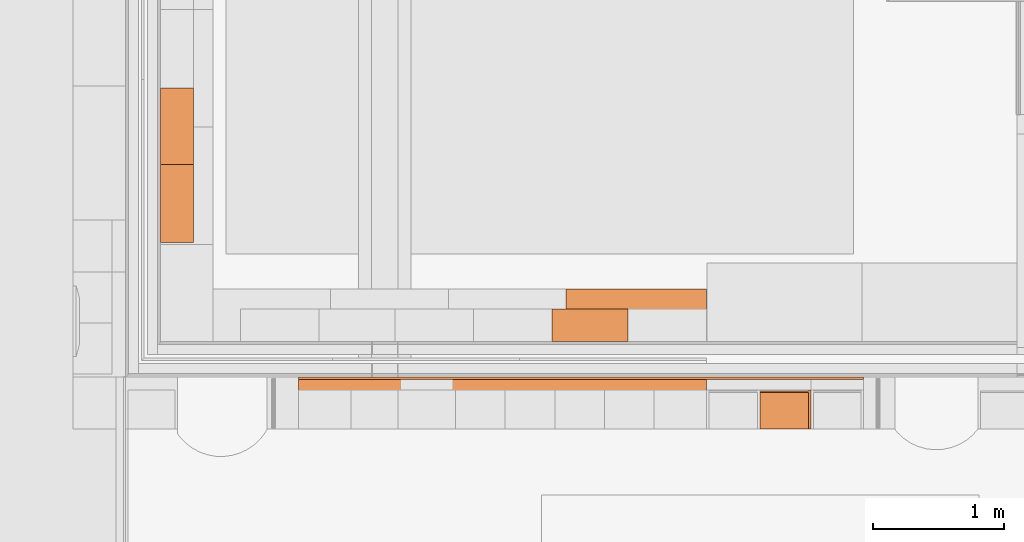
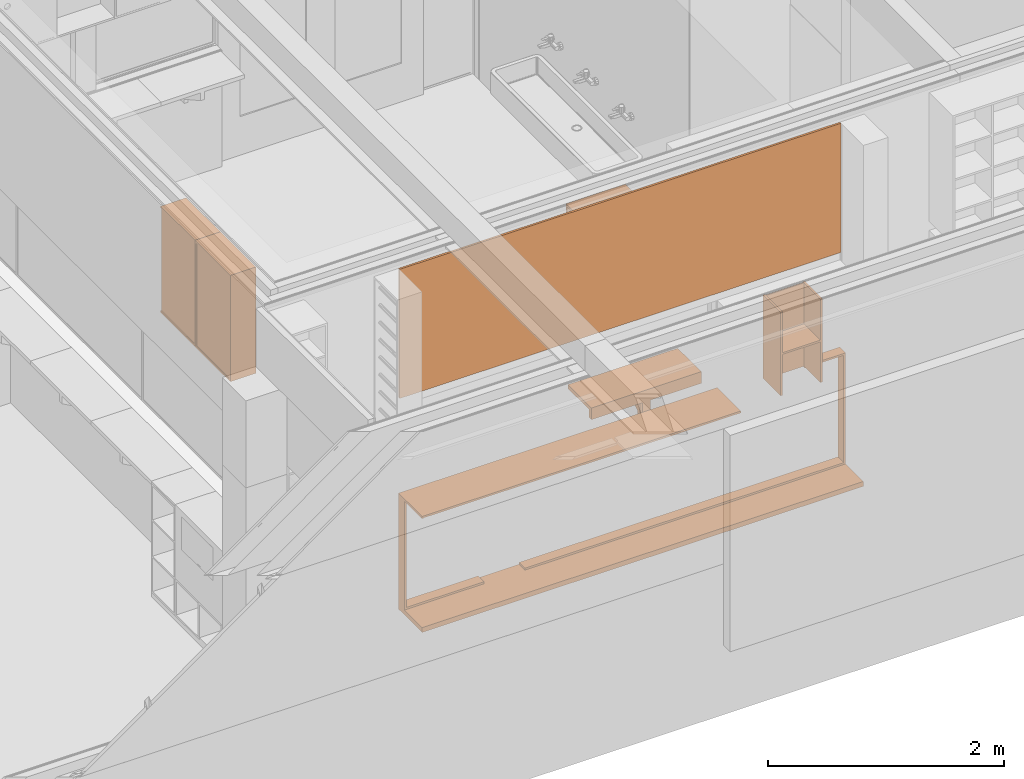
# One storey, part 129 of 137: 7 proxies.
"""IFC2X3 building model written with IfcOpenShell, lengths in millimetres."""

from ifc_helpers import new_model, entity, si_unit, converted_unit, derived_unit, money_unit, direction, frame, origin_with_axes, place, context, subcontext, project, spatial, faceted_brep, material, type_object, element, save


model = new_model("IFC2X3")

# Units and contexts
model_context = context("Model", 3, precision=0.01, world=origin_with_axes(), true_north=direction((0.0, 1.0)))
body_context = subcontext(model_context, "Body", "Model", "MODEL_VIEW")
ifc_project = project(units=[si_unit("LENGTHUNIT", "METRE", prefix="MILLI"), si_unit("AREAUNIT", "SQUARE_METRE"), si_unit("VOLUMEUNIT", "CUBIC_METRE"), converted_unit("PLANEANGLEUNIT", "DEGREE", entity("IfcPlaneAngleMeasure", 0.0174532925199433), si_unit("PLANEANGLEUNIT", "RADIAN"), dimensions=[0, 0, 0, 0, 0, 0, 0]), money_unit("EUR"), converted_unit("TIMEUNIT", "Year", entity("IfcTimeMeasure", 31556926.0), si_unit("TIMEUNIT", "SECOND"), dimensions=[0, 0, 1, 0, 0, 0, 0]), si_unit("MASSUNIT", "GRAM", prefix="KILO"), si_unit("THERMODYNAMICTEMPERATUREUNIT", "DEGREE_CELSIUS"), si_unit("LUMINOUSINTENSITYUNIT", "LUMEN"), si_unit("ENERGYUNIT", "JOULE", prefix="MEGA"), derived_unit("THERMALCONDUCTANCEUNIT", [(si_unit("POWERUNIT", "WATT"), 1), (si_unit("LENGTHUNIT", "METRE"), -1), (si_unit("THERMODYNAMICTEMPERATUREUNIT", "KELVIN"), -1)]), derived_unit("SPECIFICHEATCAPACITYUNIT", [(si_unit("ENERGYUNIT", "JOULE"), 1), (si_unit("MASSUNIT", "GRAM", prefix="KILO"), -1), (si_unit("THERMODYNAMICTEMPERATUREUNIT", "KELVIN"), -1)]), derived_unit("MASSDENSITYUNIT", [(si_unit("MASSUNIT", "GRAM", prefix="KILO"), 1), (si_unit("VOLUMEUNIT", "CUBIC_METRE"), -1)])], contexts=[model_context])

# Site, building, storey
site_placement = place(None, origin_with_axes())
site = spatial("IfcSite", under=ifc_project, at=site_placement, Name="Site", CompositionType="ELEMENT")
building_placement = place(site_placement, origin_with_axes())
building = spatial("IfcBuilding", under=site, at=building_placement, Name="Naam gebouw", CompositionType="ELEMENT")
storey_placement = place(building_placement, frame((0.0, 0.0, 3960.0), z_axis=(0.0, 0.0, 1.0), x_axis=(1.0, 0.0, 0.0)))
storey = spatial("IfcBuildingStorey", under=building, at=storey_placement, Name="1e verdieping", CompositionType="ELEMENT", Elevation=3960.0)

# Proxies
ifc_material = material(Name="ALG - ALGEMEEN")
building_element_proxy_type_1 = type_object("IfcBuildingElementProxyType", Name="ALG - ALGEMEEN 20", PredefinedType="NOTDEFINED")
proxy_1_placement = place(storey_placement, frame((21360.00666930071, 12904.99777245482, 2190.0), z_axis=(0.0, 0.0, 1.0), x_axis=(-1.0, 0.0, 0.0)))
element("IfcBuildingElementProxy", 1, at=proxy_1_placement, inside=storey, type_object=building_element_proxy_type_1, material=ifc_material, Name="_Wand-x", context=body_context, shape_type="Brep", body=[
    faceted_brep([(0.0, 19.99999999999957, 0.0), (4320.00005112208, 19.99999999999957, 0.0), (4320.00005112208, 0.0, 0.0), (0.0, 0.0, 0.0), (0.0, 19.99999999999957, 1337.000000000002), (4320.00005112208, 19.99999999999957, 1337.000000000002), (4320.00005112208, 0.0, 1337.000000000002), (0.0, 0.0, 1337.000000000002)], [[[0, 1, 2, 3]], [[4, 5, 1, 0]], [[2, 1, 5, 6]], [[3, 2, 6, 7]], [[4, 0, 3, 7]], [[7, 6, 5, 4]]]),
])
building_element_proxy_type_2 = type_object("IfcBuildingElementProxyType", Name="Onderkast recht 26", PredefinedType="NOTDEFINED")
proxy_2_placement = place(storey_placement, frame((15984.99945960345, 13930.00727895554, 2100.0), z_axis=(0.0, 0.0, 1.0), x_axis=(0.0, 1.0, 0.0)))
element("IfcBuildingElementProxy", 2, at=proxy_2_placement, inside=storey, type_object=building_element_proxy_type_2, Name="_Leeg", context=body_context, shape_type="Brep", body=[
    faceted_brep([(18.0, -250.0, 0.0), (582.0, -250.0, 0.0), (582.0, -250.0, 18.0), (18.0, -250.0, 18.0), (18.0, 0.0, 0.0), (582.0, 0.0, 0.0), (582.0, 0.0, 18.0), (18.0, 0.0, 18.0)], [[[0, 1, 2, 3]], [[0, 4, 5, 1]], [[1, 5, 6, 2]], [[3, 2, 6, 7]], [[4, 0, 3, 7]], [[5, 4, 7, 6]]]),
    faceted_brep([(18.0, -250.0, 1082.0), (582.0, -250.0, 1082.0), (582.0, -250.0, 1100.0), (18.0, -250.0, 1100.0), (18.0, 0.0, 1082.0), (582.0, 0.0, 1082.0), (582.0, 0.0, 1100.0), (18.0, 0.0, 1100.0)], [[[0, 1, 2, 3]], [[0, 4, 5, 1]], [[1, 5, 6, 2]], [[3, 2, 6, 7]], [[4, 0, 3, 7]], [[5, 4, 7, 6]]]),
    faceted_brep([(0.0, 0.0, 0.0), (0.0, -250.0, 0.0), (0.0, -250.0, 1100.0), (0.0, 0.0, 1100.0), (18.0, 0.0, 0.0), (18.0, -250.0, 0.0), (18.0, -250.0, 1100.0), (18.0, 0.0, 1100.0)], [[[0, 1, 2, 3]], [[0, 4, 5, 1]], [[1, 5, 6, 2]], [[3, 2, 6, 7]], [[4, 0, 3, 7]], [[5, 4, 7, 6]]]),
    faceted_brep([(600.0, -250.0, 0.0), (600.0, 0.0, 0.0), (600.0, 0.0, 1100.0), (600.0, -250.0, 1100.0), (582.0, -250.0, 0.0), (582.0, 0.0, 0.0), (582.0, 0.0, 1100.0), (582.0, -250.0, 1100.0)], [[[0, 1, 2, 3]], [[0, 4, 5, 1]], [[1, 5, 6, 2]], [[3, 2, 6, 7]], [[4, 0, 3, 7]], [[5, 4, 7, 6]]]),
    faceted_brep([(582.0, -9.0, 18.0), (18.00000000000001, -9.0, 18.0), (18.00000000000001, -9.0, 1082.0), (582.0, -9.0, 1082.0), (582.0, -18.0, 18.0), (18.00000000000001, -18.0, 18.0), (18.00000000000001, -18.0, 1082.0), (582.0, -18.0, 1082.0)], [[[0, 1, 2, 3]], [[0, 4, 5, 1]], [[1, 5, 6, 2]], [[3, 2, 6, 7]], [[4, 0, 3, 7]], [[5, 4, 7, 6]]]),
])
proxy_3_placement = place(storey_placement, frame((15984.99945960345, 15130.00727895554, 2100.0), z_axis=(0.0, 0.0, 1.0), x_axis=(0.0, 1.0, 0.0)))
element("IfcBuildingElementProxy", 3, at=proxy_3_placement, inside=storey, type_object=building_element_proxy_type_2, Name="_Leeg", context=body_context, shape_type="Brep", body=[
    faceted_brep([(-581.999999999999, -250.0000000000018, 541.0000000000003), (-18.00000000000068, -250.0000000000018, 541.0000000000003), (-18.00000000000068, -250.0000000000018, 559.0000000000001), (-581.999999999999, -250.0000000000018, 559.0000000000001), (-18.00000000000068, -18.00000000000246, 541.0000000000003), (-581.999999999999, -18.00000000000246, 541.0000000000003), (-18.00000000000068, -18.00000000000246, 559.0000000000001), (-581.999999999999, -18.00000000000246, 559.0000000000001)], [[[0, 1, 2, 3]], [[4, 1, 0, 5]], [[1, 4, 6, 2]], [[3, 2, 6, 7]], [[5, 0, 3, 7]], [[4, 5, 7, 6]]]),
    faceted_brep([(-581.999999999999, -250.0000000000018, 0.0), (-18.00000000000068, -250.0000000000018, 0.0), (-18.00000000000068, -250.0000000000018, 17.99999999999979), (-581.999999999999, -250.0000000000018, 17.99999999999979), (-18.00000000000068, 0.0, 0.0), (-581.999999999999, 0.0, 0.0), (-18.00000000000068, 0.0, 17.99999999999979), (-581.999999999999, 0.0, 17.99999999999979)], [[[0, 1, 2, 3]], [[4, 1, 0, 5]], [[1, 4, 6, 2]], [[3, 2, 6, 7]], [[5, 0, 3, 7]], [[4, 5, 7, 6]]]),
    faceted_brep([(-18.00000000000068, -9.000000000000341, 17.99999999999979), (-581.999999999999, -9.000000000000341, 17.99999999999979), (-581.999999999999, -9.000000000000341, 1082.000000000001), (-18.00000000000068, -9.000000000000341, 1082.000000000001), (-581.999999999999, -18.00000000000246, 17.99999999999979), (-18.00000000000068, -18.00000000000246, 17.99999999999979), (-581.999999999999, -18.00000000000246, 1082.000000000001), (-18.00000000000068, -18.00000000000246, 1082.000000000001)], [[[0, 1, 2, 3]], [[4, 1, 0, 5]], [[1, 4, 6, 2]], [[3, 2, 6, 7]], [[5, 0, 3, 7]], [[4, 5, 7, 6]]]),
    faceted_brep([(-581.999999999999, -250.0000000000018, 1082.000000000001), (-18.00000000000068, -250.0000000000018, 1082.000000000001), (-18.00000000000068, -250.0000000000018, 1100.0), (-581.999999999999, -250.0000000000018, 1100.0), (-18.00000000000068, 0.0, 1082.000000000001), (-581.999999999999, 0.0, 1082.000000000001), (-18.00000000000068, 0.0, 1100.0), (-581.999999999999, 0.0, 1100.0)], [[[0, 1, 2, 3]], [[4, 1, 0, 5]], [[1, 4, 6, 2]], [[3, 2, 6, 7]], [[5, 0, 3, 7]], [[4, 5, 7, 6]]]),
    faceted_brep([(-599.9999999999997, 0.0, 0.0), (-599.9999999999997, -250.0000000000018, 0.0), (-599.9999999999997, -250.0000000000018, 1100.0), (-599.9999999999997, 0.0, 1100.0), (-581.999999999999, -250.0000000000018, 0.0), (-581.999999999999, 0.0, 0.0), (-581.999999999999, -250.0000000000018, 1100.0), (-581.999999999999, 0.0, 1100.0)], [[[0, 1, 2, 3]], [[4, 1, 0, 5]], [[1, 4, 6, 2]], [[3, 2, 6, 7]], [[5, 0, 3, 7]], [[4, 5, 7, 6]]]),
    faceted_brep([(-580.9999999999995, -250.0000000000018, 19.00000000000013), (-19.00000000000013, -250.0000000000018, 19.00000000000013), (-19.00000000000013, -250.0000000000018, 540.0), (-580.9999999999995, -250.0000000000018, 540.0), (-511.1907786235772, -250.0000000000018, 275.7606042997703), (-508.9807621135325, -250.0000000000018, 280.5), (-505.981333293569, -250.0000000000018, 284.7836282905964), (-502.2836282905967, -250.0000000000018, 288.4813332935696), (-497.9999999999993, -250.0000000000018, 291.4807621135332), (-493.2606042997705, -250.0000000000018, 293.6907786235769), (-488.209445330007, -250.0000000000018, 295.0442325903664), (-482.9999999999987, -250.0000000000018, 295.5000000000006), (-477.7905546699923, -250.0000000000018, 295.0442325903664), (-472.7393957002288, -250.0000000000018, 293.6907786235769), (-468.0, -250.0000000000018, 291.4807621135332), (-463.7163717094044, -250.0000000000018, 288.4813332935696), (-460.0186667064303, -250.0000000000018, 284.7836282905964), (-457.0192378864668, -250.0000000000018, 280.5), (-454.8092213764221, -250.0000000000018, 275.7606042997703), (-453.4557674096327, -250.0000000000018, 270.7094453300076), (-452.9999999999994, -250.0000000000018, 265.5000000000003), (-453.4557674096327, -250.0000000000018, 260.290554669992), (-454.8092213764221, -250.0000000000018, 255.2393957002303), (-457.0192378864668, -250.0000000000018, 250.4999999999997), (-460.0186667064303, -250.0000000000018, 246.2163717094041), (-463.7163717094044, -250.0000000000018, 242.518666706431), (-468.0, -250.0000000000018, 239.5192378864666), (-472.7393957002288, -250.0000000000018, 237.3092213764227), (-477.7905546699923, -250.0000000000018, 235.9557674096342), (-482.9999999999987, -250.0000000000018, 235.5000000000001), (-488.209445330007, -250.0000000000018, 235.9557674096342), (-493.2606042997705, -250.0000000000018, 237.3092213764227), (-497.9999999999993, -250.0000000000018, 239.5192378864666), (-502.2836282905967, -250.0000000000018, 242.518666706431), (-505.981333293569, -250.0000000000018, 246.2163717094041), (-508.9807621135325, -250.0000000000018, 250.4999999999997), (-511.1907786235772, -250.0000000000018, 255.2393957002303), (-512.5442325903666, -250.0000000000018, 260.290554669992), (-512.9999999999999, -250.0000000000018, 265.5000000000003), (-512.5442325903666, -250.0000000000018, 270.7094453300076), (-580.9999999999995, -232.0000000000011, 19.00000000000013), (-19.00000000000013, -232.0000000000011, 19.00000000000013), (-19.00000000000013, -232.0000000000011, 540.0), (-580.9999999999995, -232.0000000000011, 540.0), (-508.9807621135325, -232.0000000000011, 280.5), (-511.1907786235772, -232.0000000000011, 275.7606042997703), (-505.981333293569, -232.0000000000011, 284.7836282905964), (-502.2836282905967, -232.0000000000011, 288.4813332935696), (-497.9999999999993, -232.0000000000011, 291.4807621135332), (-493.2606042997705, -232.0000000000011, 293.6907786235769), (-488.209445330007, -232.0000000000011, 295.0442325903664), (-482.9999999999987, -232.0000000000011, 295.5000000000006), (-477.7905546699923, -232.0000000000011, 295.0442325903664), (-472.7393957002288, -232.0000000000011, 293.6907786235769), (-468.0, -232.0000000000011, 291.4807621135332), (-463.7163717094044, -232.0000000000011, 288.4813332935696), (-460.0186667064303, -232.0000000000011, 284.7836282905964), (-457.0192378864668, -232.0000000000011, 280.5), (-454.8092213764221, -232.0000000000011, 275.7606042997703), (-453.4557674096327, -232.0000000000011, 270.7094453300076), (-452.9999999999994, -232.0000000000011, 265.5000000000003), (-453.4557674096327, -232.0000000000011, 260.290554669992), (-454.8092213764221, -232.0000000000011, 255.2393957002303), (-457.0192378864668, -232.0000000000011, 250.4999999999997), (-460.0186667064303, -232.0000000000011, 246.2163717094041), (-463.7163717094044, -232.0000000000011, 242.518666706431), (-468.0, -232.0000000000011, 239.5192378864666), (-472.7393957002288, -232.0000000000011, 237.3092213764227), (-477.7905546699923, -232.0000000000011, 235.9557674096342), (-482.9999999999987, -232.0000000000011, 235.5000000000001), (-488.209445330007, -232.0000000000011, 235.9557674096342), (-493.2606042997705, -232.0000000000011, 237.3092213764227), (-497.9999999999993, -232.0000000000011, 239.5192378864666), (-502.2836282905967, -232.0000000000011, 242.518666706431), (-505.981333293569, -232.0000000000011, 246.2163717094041), (-508.9807621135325, -232.0000000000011, 250.4999999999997), (-511.1907786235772, -232.0000000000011, 255.2393957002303), (-512.5442325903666, -232.0000000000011, 260.290554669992), (-512.9999999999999, -232.0000000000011, 265.5000000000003), (-512.5442325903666, -232.0000000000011, 270.7094453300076)], [[[0, 1, 2, 3], [4, 5, 6, 7, 8, 9, 10, 11, 12, 13, 14, 15, 16, 17, 18, 19, 20, 21, 22, 23, 24, 25, 26, 27, 28, 29, 30, 31, 32, 33, 34, 35, 36, 37, 38, 39]], [[40, 41, 1, 0]], [[41, 42, 2, 1]], [[42, 43, 3, 2]], [[43, 40, 0, 3]], [[44, 5, 4, 45]], [[46, 6, 5, 44]], [[47, 7, 6, 46]], [[48, 8, 7, 47]], [[49, 9, 8, 48]], [[50, 10, 9, 49]], [[51, 11, 10, 50]], [[52, 12, 11, 51]], [[53, 13, 12, 52]], [[54, 14, 13, 53]], [[55, 15, 14, 54]], [[56, 16, 15, 55]], [[57, 17, 16, 56]], [[58, 18, 17, 57]], [[59, 19, 18, 58]], [[60, 20, 19, 59]], [[61, 21, 20, 60]], [[62, 22, 21, 61]], [[63, 23, 22, 62]], [[64, 24, 23, 63]], [[65, 25, 24, 64]], [[66, 26, 25, 65]], [[67, 27, 26, 66]], [[68, 28, 27, 67]], [[69, 29, 28, 68]], [[70, 30, 29, 69]], [[71, 31, 30, 70]], [[72, 32, 31, 71]], [[73, 33, 32, 72]], [[74, 34, 33, 73]], [[75, 35, 34, 74]], [[76, 36, 35, 75]], [[77, 37, 36, 76]], [[78, 38, 37, 77]], [[79, 39, 38, 78]], [[45, 4, 39, 79]], [[42, 41, 40, 43], [76, 75, 74, 73, 72, 71, 70, 69, 68, 67, 66, 65, 64, 63, 62, 61, 60, 59, 58, 57, 56, 55, 54, 53, 52, 51, 50, 49, 48, 47, 46, 44, 45, 79, 78, 77]]]),
])
proxy_4_placement = place(storey_placement, frame((19560.00661817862, 13174.99778166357, 2100.000000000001), z_axis=(0.0, 0.0, 1.0), x_axis=(-1.0, 0.0, 0.0)))
element("IfcBuildingElementProxy", 4, at=proxy_4_placement, inside=storey, type_object=building_element_proxy_type_2, Name="_Leeg", context=body_context, shape_type="Brep", body=[
    faceted_brep([(18.00000000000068, -250.0, 559.0000000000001), (18.00000000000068, -250.0, 541.0000000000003), (582.0000000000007, -250.0, 541.0000000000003), (582.0000000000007, -250.0, 559.0000000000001), (18.00000000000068, -18.00000000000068, 559.0000000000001), (18.00000000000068, -18.00000000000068, 541.0000000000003), (582.0000000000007, -18.00000000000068, 541.0000000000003), (582.0000000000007, -18.00000000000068, 559.0000000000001)], [[[0, 1, 2, 3]], [[4, 5, 1, 0]], [[2, 1, 5, 6]], [[3, 2, 6, 7]], [[4, 0, 3, 7]], [[7, 6, 5, 4]]]),
    faceted_brep([(18.00000000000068, -250.0, 17.99999999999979), (18.00000000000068, -250.0, 0.0), (582.0000000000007, -250.0, 0.0), (582.0000000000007, -250.0, 17.99999999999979), (18.00000000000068, 0.0, 17.99999999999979), (18.00000000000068, 0.0, 0.0), (582.0000000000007, 0.0, 0.0), (582.0000000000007, 0.0, 17.99999999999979)], [[[0, 1, 2, 3]], [[4, 5, 1, 0]], [[2, 1, 5, 6]], [[3, 2, 6, 7]], [[4, 0, 3, 7]], [[7, 6, 5, 4]]]),
    faceted_brep([(582.0000000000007, -9.000000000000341, 1082.0), (582.0000000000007, -9.000000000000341, 17.99999999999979), (18.00000000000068, -9.000000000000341, 17.99999999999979), (18.00000000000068, -9.000000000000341, 1082.0), (582.0000000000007, -18.00000000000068, 1082.0), (582.0000000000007, -18.00000000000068, 17.99999999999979), (18.00000000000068, -18.00000000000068, 17.99999999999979), (18.00000000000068, -18.00000000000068, 1082.0)], [[[0, 1, 2, 3]], [[4, 5, 1, 0]], [[2, 1, 5, 6]], [[3, 2, 6, 7]], [[4, 0, 3, 7]], [[7, 6, 5, 4]]]),
    faceted_brep([(18.00000000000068, -250.0, 1100.0), (18.00000000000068, -250.0, 1082.0), (582.0000000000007, -250.0, 1082.0), (582.0000000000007, -250.0, 1100.0), (18.00000000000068, 0.0, 1100.0), (18.00000000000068, 0.0, 1082.0), (582.0000000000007, 0.0, 1082.0), (582.0000000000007, 0.0, 1100.0)], [[[0, 1, 2, 3]], [[4, 5, 1, 0]], [[2, 1, 5, 6]], [[3, 2, 6, 7]], [[4, 0, 3, 7]], [[7, 6, 5, 4]]]),
    faceted_brep([(0.0, 0.0, 1100.0), (0.0, 0.0, 0.0), (0.0, -250.0, 0.0), (0.0, -250.0, 1100.0), (18.00000000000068, 0.0, 1100.0), (18.00000000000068, 0.0, 0.0), (18.00000000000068, -250.0, 0.0), (18.00000000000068, -250.0, 1100.0)], [[[0, 1, 2, 3]], [[4, 5, 1, 0]], [[2, 1, 5, 6]], [[3, 2, 6, 7]], [[4, 0, 3, 7]], [[7, 6, 5, 4]]]),
    faceted_brep([(580.9999999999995, -250.0, 560.0000000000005), (580.9999999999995, -250.0, 1081.0), (18.99999999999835, -250.0, 1081.0), (18.99999999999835, -250.0, 560.0000000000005), (511.1907786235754, -250.0, 831.7606042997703), (512.5442325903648, -250.0, 826.7094453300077), (512.9999999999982, -250.0, 821.5000000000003), (512.5442325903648, -250.0, 816.2905546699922), (511.1907786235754, -250.0, 811.2393957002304), (508.9807621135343, -250.0, 806.5000000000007), (505.981333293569, -250.0, 802.2163717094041), (502.2836282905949, -250.0, 798.518666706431), (498.0000000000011, -250.0, 795.5192378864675), (493.2606042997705, -250.0, 793.3092213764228), (488.209445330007, -250.0, 791.9557674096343), (483.0000000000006, -250.0, 791.5000000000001), (477.7905546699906, -250.0, 791.9557674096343), (472.7393957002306, -250.0, 793.3092213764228), (468.0, -250.0, 795.5192378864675), (463.7163717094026, -250.0, 798.518666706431), (460.0186667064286, -250.0, 802.2163717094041), (457.0192378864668, -250.0, 806.5000000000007), (454.8092213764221, -250.0, 811.2393957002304), (453.4557674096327, -250.0, 816.2905546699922), (452.9999999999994, -250.0, 821.5000000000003), (453.4557674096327, -250.0, 826.7094453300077), (454.8092213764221, -250.0, 831.7606042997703), (457.0192378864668, -250.0, 836.5), (460.0186667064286, -250.0, 840.7836282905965), (463.7163717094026, -250.0, 844.4813332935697), (468.0, -250.0, 847.4807621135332), (472.7393957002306, -250.0, 849.6907786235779), (477.7905546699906, -250.0, 851.0442325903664), (483.0000000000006, -250.0, 851.5000000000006), (488.209445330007, -250.0, 851.0442325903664), (493.2606042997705, -250.0, 849.6907786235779), (498.0000000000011, -250.0, 847.4807621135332), (502.2836282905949, -250.0, 844.4813332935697), (505.981333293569, -250.0, 840.7836282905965), (508.9807621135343, -250.0, 836.5), (580.9999999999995, -231.9999999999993, 1081.0), (580.9999999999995, -231.9999999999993, 560.0000000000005), (18.99999999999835, -231.9999999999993, 1081.0), (18.99999999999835, -231.9999999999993, 560.0000000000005), (511.1907786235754, -231.9999999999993, 831.7606042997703), (512.5442325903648, -231.9999999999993, 826.7094453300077), (512.9999999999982, -231.9999999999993, 821.5000000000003), (512.5442325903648, -231.9999999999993, 816.2905546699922), (511.1907786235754, -231.9999999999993, 811.2393957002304), (508.9807621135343, -231.9999999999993, 806.5000000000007), (505.981333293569, -231.9999999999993, 802.2163717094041), (502.2836282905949, -231.9999999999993, 798.518666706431), (498.0000000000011, -231.9999999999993, 795.5192378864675), (493.2606042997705, -231.9999999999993, 793.3092213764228), (488.209445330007, -231.9999999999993, 791.9557674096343), (483.0000000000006, -231.9999999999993, 791.5000000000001), (477.7905546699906, -231.9999999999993, 791.9557674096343), (472.7393957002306, -231.9999999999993, 793.3092213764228), (468.0, -231.9999999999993, 795.5192378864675), (463.7163717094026, -231.9999999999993, 798.518666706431), (460.0186667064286, -231.9999999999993, 802.2163717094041), (457.0192378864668, -231.9999999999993, 806.5000000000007), (454.8092213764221, -231.9999999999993, 811.2393957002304), (453.4557674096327, -231.9999999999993, 816.2905546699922), (452.9999999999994, -231.9999999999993, 821.5000000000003), (453.4557674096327, -231.9999999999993, 826.7094453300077), (454.8092213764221, -231.9999999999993, 831.7606042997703), (457.0192378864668, -231.9999999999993, 836.5), (460.0186667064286, -231.9999999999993, 840.7836282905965), (463.7163717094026, -231.9999999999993, 844.4813332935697), (468.0, -231.9999999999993, 847.4807621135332), (472.7393957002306, -231.9999999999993, 849.6907786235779), (477.7905546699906, -231.9999999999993, 851.0442325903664), (483.0000000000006, -231.9999999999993, 851.5000000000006), (488.209445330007, -231.9999999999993, 851.0442325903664), (493.2606042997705, -231.9999999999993, 849.6907786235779), (498.0000000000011, -231.9999999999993, 847.4807621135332), (502.2836282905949, -231.9999999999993, 844.4813332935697), (505.981333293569, -231.9999999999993, 840.7836282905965), (508.9807621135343, -231.9999999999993, 836.5)], [[[0, 1, 2, 3], [4, 5, 6, 7, 8, 9, 10, 11, 12, 13, 14, 15, 16, 17, 18, 19, 20, 21, 22, 23, 24, 25, 26, 27, 28, 29, 30, 31, 32, 33, 34, 35, 36, 37, 38, 39]], [[40, 1, 0, 41]], [[42, 2, 1, 40]], [[43, 3, 2, 42]], [[41, 0, 3, 43]], [[44, 45, 5, 4]], [[45, 46, 6, 5]], [[46, 47, 7, 6]], [[47, 48, 8, 7]], [[48, 49, 9, 8]], [[49, 50, 10, 9]], [[50, 51, 11, 10]], [[51, 52, 12, 11]], [[52, 53, 13, 12]], [[53, 54, 14, 13]], [[54, 55, 15, 14]], [[55, 56, 16, 15]], [[56, 57, 17, 16]], [[57, 58, 18, 17]], [[58, 59, 19, 18]], [[59, 60, 20, 19]], [[60, 61, 21, 20]], [[61, 62, 22, 21]], [[62, 63, 23, 22]], [[63, 64, 24, 23]], [[64, 65, 25, 24]], [[65, 66, 26, 25]], [[66, 67, 27, 26]], [[67, 68, 28, 27]], [[68, 69, 29, 28]], [[69, 70, 30, 29]], [[70, 71, 31, 30]], [[71, 72, 32, 31]], [[72, 73, 33, 32]], [[73, 74, 34, 33]], [[74, 75, 35, 34]], [[75, 76, 36, 35]], [[76, 77, 37, 36]], [[77, 78, 38, 37]], [[78, 79, 39, 38]], [[79, 44, 4, 39]], [[42, 40, 41, 43], [48, 47, 46, 45, 44, 79, 78, 77, 76, 75, 74, 73, 72, 71, 70, 69, 68, 67, 66, 65, 64, 63, 62, 61, 60, 59, 58, 57, 56, 55, 54, 53, 52, 51, 50, 49]]]),
])
proxy_5_placement = place(storey_placement, frame((20960.00661817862, 12804.99778166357, 1199.999999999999), z_axis=(0.0, 0.0, 1.0), x_axis=(1.0, 0.0, 0.0)))
element("IfcBuildingElementProxy", 5, at=proxy_5_placement, inside=storey, type_object=building_element_proxy_type_2, Name="_Leeg", context=body_context, shape_type="Brep", body=[
    faceted_brep([(-389.999999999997, -300.0000000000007, 442.0000000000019), (-19.99999999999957, -300.0000000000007, 442.0000000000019), (-19.99999999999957, -300.0000000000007, 460.0000000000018), (-389.999999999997, -300.0000000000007, 460.0000000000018), (-19.99999999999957, -19.99999999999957, 442.0000000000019), (-389.999999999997, -19.99999999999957, 442.0000000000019), (-19.99999999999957, -19.99999999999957, 460.0000000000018), (-389.999999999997, -19.99999999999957, 460.0000000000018)], [[[0, 1, 2, 3]], [[4, 1, 0, 5]], [[1, 4, 6, 2]], [[3, 2, 6, 7]], [[5, 0, 3, 7]], [[4, 5, 7, 6]]]),
    faceted_brep([(-19.99999999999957, -9.999999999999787, 19.99999999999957), (-389.999999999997, -9.999999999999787, 19.99999999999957), (-389.999999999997, -9.999999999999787, 882.0000000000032), (-19.99999999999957, -9.999999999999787, 882.0000000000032), (-389.999999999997, -19.99999999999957, 19.99999999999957), (-19.99999999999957, -19.99999999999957, 19.99999999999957), (-389.999999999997, -19.99999999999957, 882.0000000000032), (-19.99999999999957, -19.99999999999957, 882.0000000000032)], [[[0, 1, 2, 3]], [[4, 1, 0, 5]], [[1, 4, 6, 2]], [[3, 2, 6, 7]], [[5, 0, 3, 7]], [[4, 5, 7, 6]]]),
    faceted_brep([(-19.99999999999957, 0.0, 882.0000000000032), (0.0, 0.0, 882.0000000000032), (0.0, 0.0, 19.99999999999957), (-19.99999999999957, 0.0, 19.99999999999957), (0.0, -300.0000000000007, 882.0000000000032), (-19.99999999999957, -300.0000000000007, 882.0000000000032), (0.0, -300.0000000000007, 19.99999999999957), (-19.99999999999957, -300.0000000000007, 19.99999999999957)], [[[0, 1, 2, 3]], [[4, 1, 0, 5]], [[1, 4, 6, 2]], [[3, 2, 6, 7]], [[5, 0, 3, 7]], [[4, 5, 7, 6]]]),
    faceted_brep([(-409.9999999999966, 0.0, 882.0000000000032), (-389.999999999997, 0.0, 882.0000000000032), (-389.999999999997, 0.0, 19.99999999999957), (-409.9999999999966, 0.0, 19.99999999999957), (-389.999999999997, -300.0000000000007, 882.0000000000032), (-409.9999999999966, -300.0000000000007, 882.0000000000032), (-389.999999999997, -300.0000000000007, 19.99999999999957), (-409.9999999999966, -300.0000000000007, 19.99999999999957)], [[[0, 1, 2, 3]], [[4, 1, 0, 5]], [[1, 4, 6, 2]], [[3, 2, 6, 7]], [[5, 0, 3, 7]], [[4, 5, 7, 6]]]),
])
proxy_6_placement = place(storey_placement, frame((21360.00661817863, 12504.99778166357, 0.0), z_axis=(0.0, 0.0, 1.0), x_axis=(-1.0, 0.0, 0.0)))
element("IfcBuildingElementProxy", 6, at=proxy_6_placement, inside=storey, type_object=building_element_proxy_type_2, Name="_Leeg", context=body_context, shape_type="Brep", body=[
    faceted_brep([(1200.000000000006, 0.0, 1199.999999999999), (1200.000000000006, -400.0000000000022, 1199.999999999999), (4300.000000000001, -399.999999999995, 1200.0), (4300.000000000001, 0.0, 1200.0), (1200.000000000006, -400.0000000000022, 1179.999999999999), (1200.000000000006, 0.0, 1179.999999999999), (4300.000000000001, -399.999999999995, 1180.0), (4300.000000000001, 0.0, 1180.0)], [[[0, 1, 2, 3]], [[4, 1, 0, 5]], [[1, 4, 6, 2]], [[7, 3, 2, 6]], [[5, 0, 3, 7]], [[4, 5, 7, 6]]]),
    faceted_brep([(400.0000000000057, -400.0000000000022, 1179.999999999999), (400.0000000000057, -400.0000000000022, 1199.999999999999), (19.99999999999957, -399.999999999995, 1200.0), (19.99999999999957, -399.999999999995, 1180.0), (400.0000000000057, -300.0000000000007, 1199.999999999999), (400.0000000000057, -300.0000000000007, 1180.0), (19.99999999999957, -300.0000000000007, 1200.0), (19.99999999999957, -300.0000000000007, 1180.0)], [[[0, 1, 2, 3]], [[4, 1, 0, 5]], [[1, 4, 6, 2]], [[2, 6, 7, 3]], [[5, 0, 3, 7]], [[4, 5, 7, 6]]]),
    faceted_brep([(4320.0, -399.999999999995, 0.0), (4320.0, -399.999999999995, 49.99999999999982), (0.0, -399.999999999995, 49.99999999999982), (0.0, -399.999999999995, 0.0), (4320.0, 0.0, 0.0), (4320.0, 0.0, 49.99999999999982), (0.0, 0.0, 49.99999999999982), (0.0, 0.0, 0.0)], [[[0, 1, 2, 3]], [[4, 5, 1, 0]], [[1, 5, 6, 2]], [[3, 2, 6, 7]], [[7, 4, 0, 3]], [[7, 6, 5, 4]]]),
    faceted_brep([(400.0000000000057, -300.0000000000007, 69.9999999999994), (380.0000000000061, -300.0000000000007, 69.9999999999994), (19.99999999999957, -300.0000000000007, 69.9999999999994), (19.99999999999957, -399.999999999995, 70.00000000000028), (3140.000000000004, -399.9999999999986, 69.9999999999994), (3139.999999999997, -299.9999999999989, 69.9999999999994), (400.0000000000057, -300.0000000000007, 49.99999999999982), (19.99999999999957, -300.0000000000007, 49.99999999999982), (3139.999999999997, -299.9999999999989, 49.99999999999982), (19.99999999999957, -399.999999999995, 49.99999999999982), (3140.000000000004, -399.9999999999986, 49.99999999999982)], [[[0, 1, 2, 3, 4, 5]], [[6, 7, 2, 1, 0, 5, 8]], [[2, 7, 9, 3]], [[10, 4, 3, 9]], [[5, 4, 10, 8]], [[6, 8, 10, 9, 7]]]),
    faceted_brep([(19.99999999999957, -300.0000000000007, 1200.0), (0.0, -300.0000000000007, 1200.0), (0.0, -399.999999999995, 1200.0), (19.99999999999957, -399.999999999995, 1200.0), (0.0, -300.0000000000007, 49.99999999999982), (19.99999999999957, -300.0000000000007, 49.99999999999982), (0.0, -399.999999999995, 49.99999999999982), (19.99999999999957, -399.999999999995, 49.99999999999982)], [[[0, 1, 2, 3]], [[4, 1, 0, 5]], [[1, 4, 6, 2]], [[3, 2, 6, 7]], [[5, 0, 3, 7]], [[4, 5, 7, 6]]]),
    faceted_brep([(3540.000000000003, -299.9999999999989, 70.00000000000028), (3540.000000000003, -399.9999999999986, 69.9999999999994), (4300.000000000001, -399.999999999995, 70.00000000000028), (4300.000000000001, -299.9999999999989, 69.9999999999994), (3540.000000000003, -399.9999999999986, 49.99999999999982), (3540.000000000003, -299.9999999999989, 49.99999999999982), (4300.000000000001, -399.999999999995, 49.99999999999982), (4300.000000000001, -299.9999999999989, 49.99999999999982)], [[[0, 1, 2, 3]], [[4, 1, 0, 5]], [[1, 4, 6, 2]], [[2, 6, 7, 3]], [[5, 0, 3, 7]], [[4, 5, 7, 6]]]),
    faceted_brep([(4300.000000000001, -299.9999999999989, 1177.0), (4300.000000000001, -299.9999999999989, 49.99999999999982), (4300.000000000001, -399.999999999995, 49.99999999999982), (4300.000000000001, -399.999999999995, 1200.0), (4300.000000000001, 0.0, 1200.0), (4300.000000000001, 0.0, 1177.0), (4320.0, -299.9999999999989, 1177.0), (4320.0, -299.9999999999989, 49.99999999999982), (4320.0, -399.999999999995, 49.99999999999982), (4320.0, -399.999999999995, 1200.0), (4320.0, 0.0, 1200.0), (4320.0, 0.0, 1177.0)], [[[0, 1, 2, 3, 4, 5]], [[1, 0, 6, 7]], [[1, 7, 8, 2]], [[3, 2, 8, 9]], [[3, 9, 10, 4]], [[11, 5, 4, 10]], [[0, 5, 11, 6]], [[6, 11, 10, 9, 8, 7]]]),
])
building_element_proxy_type_3 = type_object("IfcBuildingElementProxyType", Name="Klaptafel wand 26", PredefinedType="NOTDEFINED")
proxy_7_placement = place(storey_placement, frame((19085.24442572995, 13574.99779706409, 459.9999999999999), z_axis=(0.0, 0.0, 1.0), x_axis=(-1.0, 0.0, 0.0)))
element("IfcBuildingElementProxy", 7, at=proxy_7_placement, inside=storey, type_object=building_element_proxy_type_3, Name="_Leeg", context=body_context, shape_type="Brep", body=[
    faceted_brep([(-557.3810962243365, 0.0, 620.0), (-557.3810962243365, 360.0000000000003, 620.0), (-517.3810962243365, 360.0000000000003, 620.0), (-517.3810962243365, 0.0, 620.0), (-557.3810962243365, 0.0, 700.0), (-557.3810962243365, 360.0000000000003, 700.0), (-517.3810962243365, 360.0000000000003, 700.0), (-517.3810962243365, 0.0, 700.0)], [[[0, 1, 2, 3]], [[0, 4, 5, 1]], [[1, 5, 6, 2]], [[2, 6, 7, 3]], [[3, 7, 4, 0]], [[7, 6, 5, 4]]]),
    faceted_brep([(-557.3810962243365, 280.0000000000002, 419.9999999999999), (-557.3810962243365, 360.0000000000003, 419.9999999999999), (-517.3810962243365, 360.0000000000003, 419.9999999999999), (-517.3810962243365, 280.0000000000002, 419.9999999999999), (-557.3810962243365, 280.0000000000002, 620.0), (-557.3810962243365, 360.0000000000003, 620.0), (-517.3810962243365, 360.0000000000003, 620.0), (-517.3810962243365, 280.0000000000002, 620.0)], [[[0, 1, 2, 3]], [[0, 4, 5, 1]], [[1, 5, 6, 2]], [[2, 6, 7, 3]], [[3, 7, 4, 0]], [[7, 6, 5, 4]]]),
    faceted_brep([(-517.3810962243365, 0.0, 620.0), (-557.3810962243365, 0.0, 620.0), (-557.3810962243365, 280.0000000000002, 464.4444444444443), (-517.3810962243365, 280.0000000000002, 464.4444444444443), (-517.3810962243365, 164.730082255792, 620.0), (-557.3810962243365, 164.730082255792, 620.0), (-557.3810962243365, 280.0000000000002, 555.9611568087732), (-517.3810962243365, 280.0000000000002, 555.9611568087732)], [[[0, 1, 2, 3]], [[4, 5, 1, 0]], [[1, 5, 6, 2]], [[3, 2, 6, 7]], [[0, 3, 7, 4]], [[7, 6, 5, 4]]]),
    faceted_brep([(-1074.762192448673, 0.0, 700.0), (-1074.762192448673, 320.0000000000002, 700.0), (0.0, 320.0000000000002, 700.0), (0.0, 0.0, 700.0), (-1074.762192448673, 0.0, 740.0), (-1074.762192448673, 320.0000000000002, 740.0), (0.0, 320.0000000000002, 740.0), (0.0, 0.0, 740.0)], [[[0, 1, 2, 3]], [[0, 4, 5, 1]], [[1, 5, 6, 2]], [[2, 6, 7, 3]], [[3, 7, 4, 0]], [[7, 6, 5, 4]]]),
    faceted_brep([(-1074.762192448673, 320.0000000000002, 700.0), (-1074.762192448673, 400.0000000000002, 700.0), (0.0, 400.0000000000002, 700.0), (0.0, 320.0000000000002, 700.0), (-1074.762192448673, 320.0000000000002, 740.0), (-1074.762192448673, 400.0000000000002, 740.0), (0.0, 400.0000000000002, 740.0), (0.0, 320.0000000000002, 740.0)], [[[0, 1, 2, 3]], [[0, 4, 5, 1]], [[1, 5, 6, 2]], [[2, 6, 7, 3]], [[3, 7, 4, 0]], [[7, 6, 5, 4]]]),
    faceted_brep([(-1074.762192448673, 360.0000000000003, 620.0), (-1074.762192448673, 400.0000000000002, 620.0), (0.0, 400.0000000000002, 620.0), (0.0, 360.0000000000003, 620.0), (-1074.762192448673, 360.0000000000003, 700.0), (-1074.762192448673, 400.0000000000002, 700.0), (0.0, 400.0000000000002, 700.0), (0.0, 360.0000000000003, 700.0)], [[[0, 1, 2, 3]], [[0, 4, 5, 1]], [[1, 5, 6, 2]], [[2, 6, 7, 3]], [[3, 7, 4, 0]], [[7, 6, 5, 4]]]),
    faceted_brep([(-577.3810962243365, 360.0000000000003, 419.9999999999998), (-577.3810962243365, 400.0000000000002, 419.9999999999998), (-497.3810962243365, 400.0000000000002, 419.9999999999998), (-497.3810962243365, 360.0000000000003, 419.9999999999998), (-577.3810962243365, 360.0000000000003, 619.9999999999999), (-577.3810962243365, 400.0000000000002, 619.9999999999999), (-497.3810962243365, 400.0000000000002, 619.9999999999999), (-497.3810962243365, 360.0000000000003, 619.9999999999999)], [[[0, 1, 2, 3]], [[0, 4, 5, 1]], [[1, 5, 6, 2]], [[2, 6, 7, 3]], [[3, 7, 4, 0]], [[7, 6, 5, 4]]]),
])

save(model, "model.ifc")
